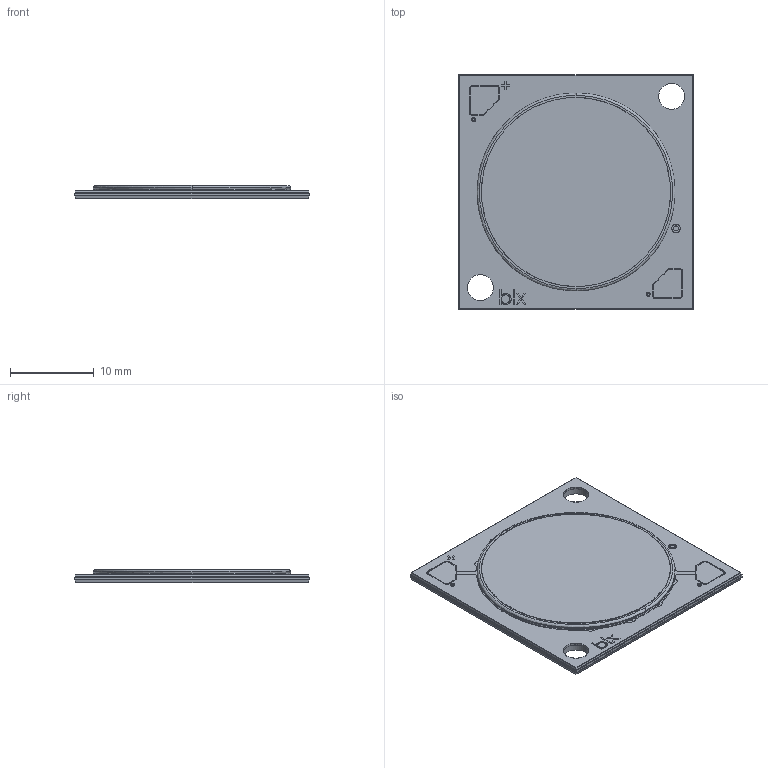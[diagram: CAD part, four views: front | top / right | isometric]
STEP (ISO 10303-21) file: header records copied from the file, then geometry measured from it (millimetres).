
FILE_DESCRIPTION (( 'STEP AP214' ), '1' );
FILE_NAME ('V22 nxt.STEP', '2016-01-20T02:53:00', ( '' ), ( '' ), 'SwSTEP 2.0', 'SolidWorks 2014', '' );
FILE_SCHEMA (( 'AUTOMOTIVE_DESIGN' ));
Length unit declared in the file: millimetre
Products named in the file (1): V22 nxt
Bounding box: 28 x 28 x 1.59 mm (x, y, z)
Volume: 999.9 mm3; surface area: 5090.9 mm2
Topology: 40 solids, 40 shells, 520 faces, 1268 edges, 835 vertices
Faces by surface type: cylinder 322, plane 172, bspline 26
Entity records: 22327 total; most frequent: CARTESIAN_POINT 3420, DIRECTION 2884, ORIENTED_EDGE 2536, EDGE_CURVE 1268, AXIS2_PLACEMENT_3D 1155, VERTEX_POINT 835, CIRCLE 660, VECTOR 574
